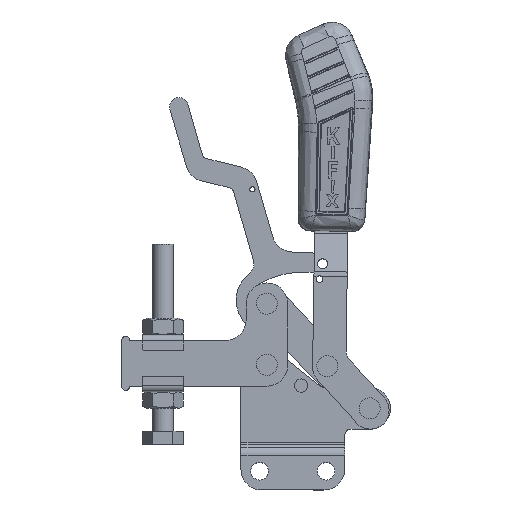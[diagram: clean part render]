
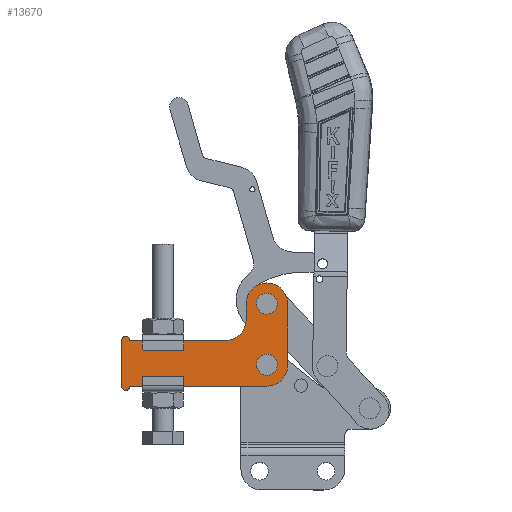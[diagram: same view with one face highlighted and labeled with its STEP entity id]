
A CAD part, top view. The second image highlights one B-rep face of the part: STEP entity #13670.
In plain terms, the highlighted planar face has unit normal (0, 0, 1).
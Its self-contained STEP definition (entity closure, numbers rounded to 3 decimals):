
#237 = FACE_BOUND ( 'NONE', #22948, .T. ) ;
#817 = LINE ( 'NONE', #15169, #1454 ) ;
#1028 = ORIENTED_EDGE ( 'NONE', *, *, #4365, .T. ) ;
#1040 = CARTESIAN_POINT ( 'NONE',  ( 60., 28.7, 0. ) ) ;
#1094 = VERTEX_POINT ( 'NONE', #19059 ) ;
#1103 = DIRECTION ( 'NONE',  ( 0., 1., 0. ) ) ;
#1165 = CARTESIAN_POINT ( 'NONE',  ( 74., 28.7, 0. ) ) ;
#1170 = CARTESIAN_POINT ( 'NONE',  ( 50., 11., 0. ) ) ;
#1454 = VECTOR ( 'NONE', #1103, 1000. ) ;
#1531 = CIRCLE ( 'NONE', #7167, 10. ) ;
#1573 = CARTESIAN_POINT ( 'NONE',  ( 70., 28.7, 0. ) ) ;
#1732 = CARTESIAN_POINT ( 'NONE',  ( 70., -0.7, 0. ) ) ;
#1760 = EDGE_CURVE ( 'NONE', #14910, #23226, #18092, .T. ) ;
#1922 = CARTESIAN_POINT ( 'NONE',  ( 70., -1., 0. ) ) ;
#2342 = DIRECTION ( 'NONE',  ( 0., -1., 0. ) ) ;
#2592 = ORIENTED_EDGE ( 'NONE', *, *, #1760, .T. ) ;
#2668 = DIRECTION ( 'NONE',  ( 0., 0., 1. ) ) ;
#2934 = CARTESIAN_POINT ( 'NONE',  ( 80., 28.7, 0. ) ) ;
#2963 = CARTESIAN_POINT ( 'NONE',  ( 70., -11., 0. ) ) ;
#3320 = LINE ( 'NONE', #21049, #17405 ) ;
#3575 = DIRECTION ( 'NONE',  ( 1., 0., 0. ) ) ;
#3699 = CARTESIAN_POINT ( 'NONE',  ( 74., -0.7, 0. ) ) ;
#3705 = CARTESIAN_POINT ( 'NONE',  ( 70., -0.7, 0. ) ) ;
#3722 = DIRECTION ( 'NONE',  ( 1., 0., 0. ) ) ;
#3728 = CIRCLE ( 'NONE', #14765, 4. ) ;
#3729 = ORIENTED_EDGE ( 'NONE', *, *, #21516, .F. ) ;
#3836 = VERTEX_POINT ( 'NONE', #8188 ) ;
#3915 = DIRECTION ( 'NONE',  ( 1., 0., 0. ) ) ;
#4072 = VERTEX_POINT ( 'NONE', #6889 ) ;
#4291 = LINE ( 'NONE', #16311, #20250 ) ;
#4340 = ORIENTED_EDGE ( 'NONE', *, *, #23533, .T. ) ;
#4365 = EDGE_CURVE ( 'NONE', #11234, #4072, #23566, .T. ) ;
#4605 = CARTESIAN_POINT ( 'NONE',  ( 2., -11., 0. ) ) ;
#4677 = AXIS2_PLACEMENT_3D ( 'NONE', #3705, #17697, #5705 ) ;
#4735 = DIRECTION ( 'NONE',  ( 0., 0., 1. ) ) ;
#5178 = ORIENTED_EDGE ( 'NONE', *, *, #15785, .T. ) ;
#5243 = ORIENTED_EDGE ( 'NONE', *, *, #12761, .T. ) ;
#5544 = FACE_OUTER_BOUND ( 'NONE', #8796, .T. ) ;
#5705 = DIRECTION ( 'NONE',  ( 1., 0., 0. ) ) ;
#5835 = VERTEX_POINT ( 'NONE', #3699 ) ;
#5957 = VECTOR ( 'NONE', #21222, 1000. ) ;
#5983 = AXIS2_PLACEMENT_3D ( 'NONE', #1573, #15536, #3575 ) ;
#6253 = DIRECTION ( 'NONE',  ( 0., 0., 1. ) ) ;
#6614 = DIRECTION ( 'NONE',  ( 1., 0., 0. ) ) ;
#6889 = CARTESIAN_POINT ( 'NONE',  ( 80., -1., 0. ) ) ;
#6993 = ORIENTED_EDGE ( 'NONE', *, *, #10442, .F. ) ;
#7019 = DIRECTION ( 'NONE',  ( 0., -1., 0. ) ) ;
#7043 = VERTEX_POINT ( 'NONE', #25917 ) ;
#7167 = AXIS2_PLACEMENT_3D ( 'NONE', #21889, #9837, #23918 ) ;
#7680 = ORIENTED_EDGE ( 'NONE', *, *, #8573, .F. ) ;
#7767 = CARTESIAN_POINT ( 'NONE',  ( 66., 28.7, 0. ) ) ;
#7816 = VERTEX_POINT ( 'NONE', #22702 ) ;
#8078 = EDGE_CURVE ( 'NONE', #18934, #9027, #22478, .T. ) ;
#8131 = CARTESIAN_POINT ( 'NONE',  ( 66., -0.7, 0. ) ) ;
#8188 = CARTESIAN_POINT ( 'NONE',  ( 50., 11., 0. ) ) ;
#8573 = EDGE_CURVE ( 'NONE', #5835, #16683, #25605, .T. ) ;
#8648 = AXIS2_PLACEMENT_3D ( 'NONE', #1922, #15883, #3915 ) ;
#8796 = EDGE_LOOP ( 'NONE', ( #13990, #21202, #13458, #5178, #1028, #15232, #2592, #4340, #5243, #16778 ) ) ;
#9027 = VERTEX_POINT ( 'NONE', #1165 ) ;
#9186 = EDGE_CURVE ( 'NONE', #4072, #14910, #817, .T. ) ;
#9195 = CIRCLE ( 'NONE', #4677, 4. ) ;
#9837 = DIRECTION ( 'NONE',  ( 0., 0., -1. ) ) ;
#10353 = CARTESIAN_POINT ( 'NONE',  ( 4., -11., 0. ) ) ;
#10442 = EDGE_CURVE ( 'NONE', #16683, #5835, #9195, .T. ) ;
#11234 = VERTEX_POINT ( 'NONE', #2963 ) ;
#11471 = FACE_BOUND ( 'NONE', #11828, .T. ) ;
#11537 = DIRECTION ( 'NONE',  ( -1., 0., 0. ) ) ;
#11810 = AXIS2_PLACEMENT_3D ( 'NONE', #14633, #2668, #16639 ) ;
#11828 = EDGE_LOOP ( 'NONE', ( #3729, #16416 ) ) ;
#12761 = EDGE_CURVE ( 'NONE', #21951, #3836, #1531, .T. ) ;
#13458 = ORIENTED_EDGE ( 'NONE', *, *, #24591, .T. ) ;
#13468 = CARTESIAN_POINT ( 'NONE',  ( 2., 11., 0. ) ) ;
#13670 = ADVANCED_FACE ( 'NONE', ( #237, #11471, #5544 ), #21563, .F. ) ;
#13990 = ORIENTED_EDGE ( 'NONE', *, *, #20513, .T. ) ;
#14633 = CARTESIAN_POINT ( 'NONE',  ( 70., 28.7, 0. ) ) ;
#14653 = AXIS2_PLACEMENT_3D ( 'NONE', #4605, #18617, #6614 ) ;
#14765 = AXIS2_PLACEMENT_3D ( 'NONE', #18250, #6253, #20253 ) ;
#14910 = VERTEX_POINT ( 'NONE', #2934 ) ;
#14946 = EDGE_CURVE ( 'NONE', #7816, #7043, #3320, .T. ) ;
#15169 = CARTESIAN_POINT ( 'NONE',  ( 80., -1., 0. ) ) ;
#15232 = ORIENTED_EDGE ( 'NONE', *, *, #9186, .T. ) ;
#15479 = VECTOR ( 'NONE', #24436, 1000. ) ;
#15536 = DIRECTION ( 'NONE',  ( 0., 0., 1. ) ) ;
#15703 = DIRECTION ( 'NONE',  ( 0., 0., 1. ) ) ;
#15785 = EDGE_CURVE ( 'NONE', #23036, #11234, #24935, .T. ) ;
#15883 = DIRECTION ( 'NONE',  ( 0., 0., 1. ) ) ;
#16311 = CARTESIAN_POINT ( 'NONE',  ( 60., 28.7, 0. ) ) ;
#16416 = ORIENTED_EDGE ( 'NONE', *, *, #8078, .F. ) ;
#16589 = LINE ( 'NONE', #1170, #5957 ) ;
#16639 = DIRECTION ( 'NONE',  ( 1., 0., 0. ) ) ;
#16683 = VERTEX_POINT ( 'NONE', #8131 ) ;
#16710 = CARTESIAN_POINT ( 'NONE',  ( 2., 11., 0. ) ) ;
#16778 = ORIENTED_EDGE ( 'NONE', *, *, #20172, .T. ) ;
#17405 = VECTOR ( 'NONE', #7019, 1000. ) ;
#17697 = DIRECTION ( 'NONE',  ( 0., 0., 1. ) ) ;
#18092 = CIRCLE ( 'NONE', #11810, 10. ) ;
#18250 = CARTESIAN_POINT ( 'NONE',  ( 70., 28.7, 0. ) ) ;
#18617 = DIRECTION ( 'NONE',  ( 0., 0., 1. ) ) ;
#18743 = DIRECTION ( 'NONE',  ( -1., 0., 0. ) ) ;
#18934 = VERTEX_POINT ( 'NONE', #7767 ) ;
#19059 = CARTESIAN_POINT ( 'NONE',  ( 4., 11., 0. ) ) ;
#19463 = AXIS2_PLACEMENT_3D ( 'NONE', #16710, #4735, #18743 ) ;
#20172 = EDGE_CURVE ( 'NONE', #3836, #1094, #16589, .T. ) ;
#20214 = CARTESIAN_POINT ( 'NONE',  ( 4., -11., 0. ) ) ;
#20250 = VECTOR ( 'NONE', #2342, 1000. ) ;
#20253 = DIRECTION ( 'NONE',  ( 1., 0., 0. ) ) ;
#20513 = EDGE_CURVE ( 'NONE', #1094, #7816, #21635, .T. ) ;
#21049 = CARTESIAN_POINT ( 'NONE',  ( 0., 11., 0. ) ) ;
#21202 = ORIENTED_EDGE ( 'NONE', *, *, #14946, .T. ) ;
#21222 = DIRECTION ( 'NONE',  ( -1., 0., 0. ) ) ;
#21516 = EDGE_CURVE ( 'NONE', #9027, #18934, #3728, .T. ) ;
#21563 = PLANE ( 'NONE',  #23162 ) ;
#21635 = CIRCLE ( 'NONE', #19463, 2. ) ;
#21880 = CARTESIAN_POINT ( 'NONE',  ( 60., 21., 0. ) ) ;
#21889 = CARTESIAN_POINT ( 'NONE',  ( 50., 21., 0. ) ) ;
#21951 = VERTEX_POINT ( 'NONE', #21880 ) ;
#22478 = CIRCLE ( 'NONE', #5983, 4. ) ;
#22702 = CARTESIAN_POINT ( 'NONE',  ( 0., 11., 0. ) ) ;
#22948 = EDGE_LOOP ( 'NONE', ( #7680, #6993 ) ) ;
#23036 = VERTEX_POINT ( 'NONE', #20214 ) ;
#23162 = AXIS2_PLACEMENT_3D ( 'NONE', #13468, #23583, #11537 ) ;
#23226 = VERTEX_POINT ( 'NONE', #1040 ) ;
#23533 = EDGE_CURVE ( 'NONE', #23226, #21951, #4291, .T. ) ;
#23566 = CIRCLE ( 'NONE', #8648, 10. ) ;
#23583 = DIRECTION ( 'NONE',  ( 0., 0., -1. ) ) ;
#23715 = CIRCLE ( 'NONE', #14653, 2. ) ;
#23918 = DIRECTION ( 'NONE',  ( -1., 0., 0. ) ) ;
#24436 = DIRECTION ( 'NONE',  ( 1., 0., 0. ) ) ;
#24591 = EDGE_CURVE ( 'NONE', #7043, #23036, #23715, .T. ) ;
#24935 = LINE ( 'NONE', #10353, #15479 ) ;
#25605 = CIRCLE ( 'NONE', #25649, 4. ) ;
#25649 = AXIS2_PLACEMENT_3D ( 'NONE', #1732, #15703, #3722 ) ;
#25917 = CARTESIAN_POINT ( 'NONE',  ( 0., -11., 0. ) ) ;
